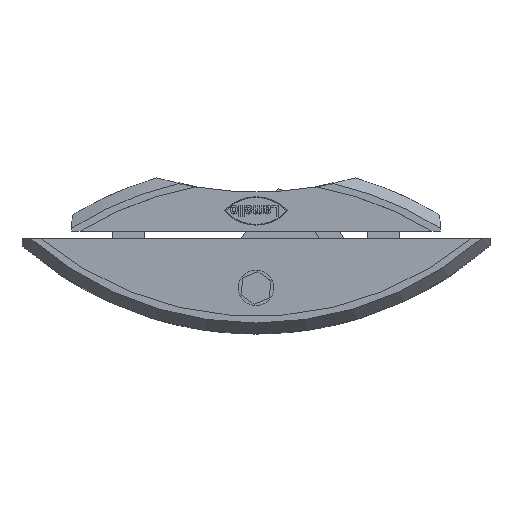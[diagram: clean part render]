
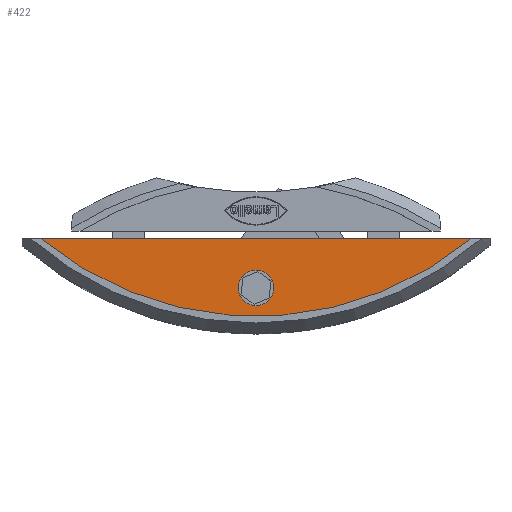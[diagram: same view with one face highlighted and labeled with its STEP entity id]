
A CAD part, top view. The second image highlights one B-rep face of the part: STEP entity #422.
In plain terms, the highlighted planar face has unit normal (0, 0, 1).
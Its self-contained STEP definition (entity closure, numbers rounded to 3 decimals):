
#130=CARTESIAN_POINT('',(-2.5,-7.,3.5));
#131=VERTEX_POINT('',#130);
#140=CARTESIAN_POINT('',(2.5,-7.,3.5));
#141=VERTEX_POINT('',#140);
#142=CARTESIAN_POINT('',(0.0,-7.,3.5));
#143=DIRECTION('',(0.0,0.0,-1.0));
#144=DIRECTION('',(-1.0,0.0,0.0));
#145=AXIS2_PLACEMENT_3D('',#142,#143,#144);
#146=CIRCLE('',#145,2.5);
#147=EDGE_CURVE('',#141,#131,#146,.T.);
#388=CARTESIAN_POINT('',(0.0,-3.405,3.5));
#389=DIRECTION('',(0.0,0.0,1.0));
#390=DIRECTION('',(1.0,0.0,0.0));
#391=AXIS2_PLACEMENT_3D('',#388,#389,#390);
#392=PLANE('',#391);
#393=CARTESIAN_POINT('',(-30.397,0.0,3.5));
#394=VERTEX_POINT('',#393);
#395=CARTESIAN_POINT('',(30.397,0.0,3.5));
#396=VERTEX_POINT('',#395);
#397=CARTESIAN_POINT('',(0.,0.0,3.5));
#398=DIRECTION('',(1.0,0.0,0.0));
#399=VECTOR('',#398,60.795);
#400=LINE('',#397,#399);
#401=EDGE_CURVE('',#394,#396,#400,.T.);
#402=ORIENTED_EDGE('',*,*,#401,.F.);
#403=CARTESIAN_POINT('',(0.0,36.5,3.5));
#404=DIRECTION('',(0.0,0.0,-1.0));
#405=DIRECTION('',(0.64,0.768,0.0));
#406=AXIS2_PLACEMENT_3D('',#403,#404,#405);
#407=CIRCLE('',#406,47.5);
#408=EDGE_CURVE('',#396,#394,#407,.T.);
#409=ORIENTED_EDGE('',*,*,#408,.F.);
#410=EDGE_LOOP('',(#402,#409));
#411=FACE_OUTER_BOUND('',#410,.T.);
#412=ORIENTED_EDGE('',*,*,#147,.T.);
#413=CARTESIAN_POINT('',(0.0,-7.,3.5));
#414=DIRECTION('',(0.0,0.0,-1.0));
#415=DIRECTION('',(-1.0,0.0,0.0));
#416=AXIS2_PLACEMENT_3D('',#413,#414,#415);
#417=CIRCLE('',#416,2.5);
#418=EDGE_CURVE('',#131,#141,#417,.T.);
#419=ORIENTED_EDGE('',*,*,#418,.T.);
#420=EDGE_LOOP('',(#412,#419));
#421=FACE_BOUND('',#420,.T.);
#422=ADVANCED_FACE('',(#411,#421),#392,.T.);
